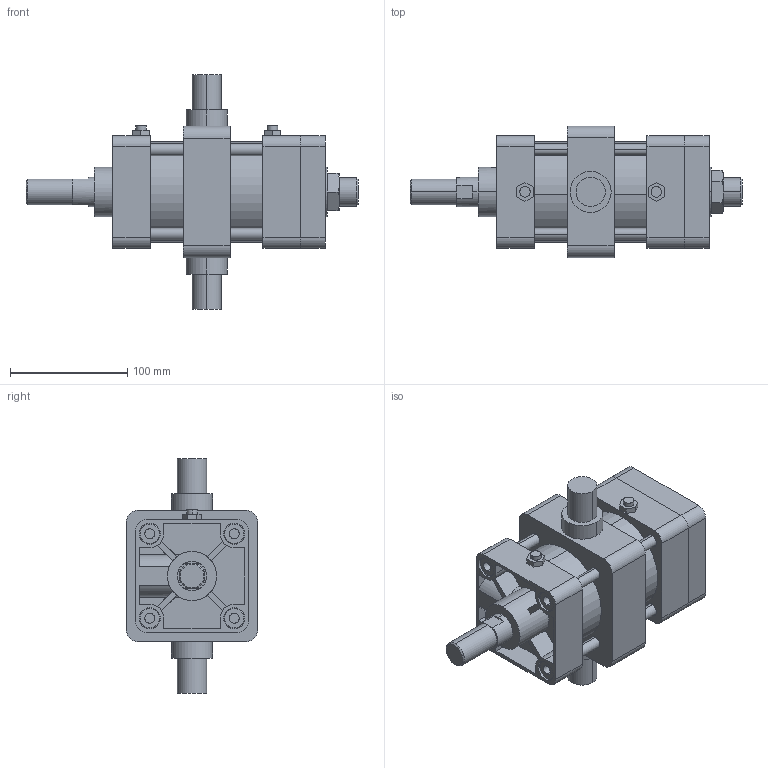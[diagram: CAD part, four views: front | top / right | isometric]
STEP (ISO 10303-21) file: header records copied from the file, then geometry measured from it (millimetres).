
FILE_DESCRIPTION (( 'STEP AP203' ), '1' );
FILE_NAME ('KGA2-80#-50-T.STEP', '2016-04-14T07:45:18', ( '' ), ( '' ), 'SwSTEP 2.0', 'SolidWorks 2014', '' );
FILE_SCHEMA (( 'CONFIG_CONTROL_DESIGN' ));
Length unit declared in the file: millimetre
Products named in the file (8): KGLH2-80-50; K-80-T; KG2-80-After; KGA2-80#-50-T; KGA2-80-After
Assembly tree (17 placements, depth 2):
  KGA2-80#-50-T
    KG2-80-After
    KGLH2-80-50
    (unnamed)
    (unnamed)  x4
    (unnamed)  x8
    K-80-T
    KGA2-80-After
Bounding box: 283 x 112 x 200 mm (x, y, z)
Volume: 1568223.9 mm3; surface area: 255079.2 mm2
Topology: 17 solids, 17 shells, 380 faces, 900 edges, 576 vertices
Faces by surface type: plane 158, cylinder 156, torus 38, cone 28
Entity records: 9996 total; most frequent: CARTESIAN_POINT 1766, DIRECTION 1574, ORIENTED_EDGE 1420, EDGE_CURVE 710, AXIS2_PLACEMENT_3D 594, VERTEX_POINT 466, LINE 386, VECTOR 386
